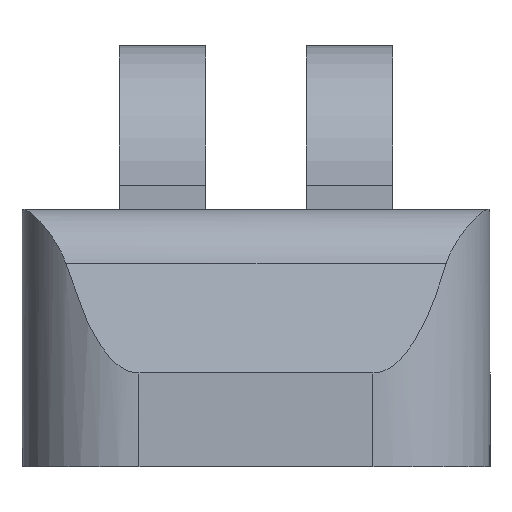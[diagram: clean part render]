
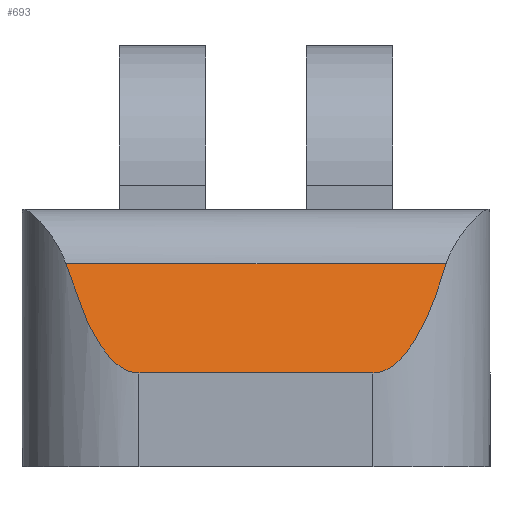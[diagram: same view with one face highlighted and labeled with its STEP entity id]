
A CAD part, left-side view. The second image highlights one B-rep face of the part: STEP entity #693.
In plain terms, the highlighted planar face has unit normal (-0.973, 0, 0.229).
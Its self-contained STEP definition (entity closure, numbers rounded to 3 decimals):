
#16=ELLIPSE('',#771,21.8,5.);
#17=ELLIPSE('',#772,21.8,5.);
#96=FACE_OUTER_BOUND('',#139,.T.);
#139=EDGE_LOOP('',(#575,#576,#577,#578));
#203=LINE('',#1166,#268);
#204=LINE('',#1185,#269);
#268=VECTOR('',#940,10.);
#269=VECTOR('',#947,10.);
#335=VERTEX_POINT('',#1152);
#336=VERTEX_POINT('',#1165);
#338=VERTEX_POINT('',#1182);
#339=VERTEX_POINT('',#1184);
#423=EDGE_CURVE('',#336,#335,#203,.T.);
#426=EDGE_CURVE('',#335,#338,#16,.T.);
#427=EDGE_CURVE('',#338,#339,#204,.T.);
#428=EDGE_CURVE('',#339,#336,#17,.T.);
#575=ORIENTED_EDGE('',*,*,#426,.T.);
#576=ORIENTED_EDGE('',*,*,#427,.T.);
#577=ORIENTED_EDGE('',*,*,#428,.T.);
#578=ORIENTED_EDGE('',*,*,#423,.T.);
#661=PLANE('',#770);
#693=ADVANCED_FACE('',(#96),#661,.T.);
#770=AXIS2_PLACEMENT_3D('',#1181,#943,#944);
#771=AXIS2_PLACEMENT_3D('',#1183,#945,#946);
#772=AXIS2_PLACEMENT_3D('',#1186,#948,#949);
#940=DIRECTION('',(0.,1.,0.));
#943=DIRECTION('center_axis',(-0.973,0.,0.229));
#944=DIRECTION('ref_axis',(0.229,0.,0.973));
#945=DIRECTION('center_axis',(-0.973,0.,0.229));
#946=DIRECTION('ref_axis',(-0.229,0.,-0.973));
#947=DIRECTION('',(0.,-1.,0.));
#948=DIRECTION('center_axis',(-0.973,0.,0.229));
#949=DIRECTION('ref_axis',(-0.229,0.,-0.973));
#1152=CARTESIAN_POINT('',(-31.4,8.129,8.668));
#1165=CARTESIAN_POINT('',(-31.4,-8.129,8.668));
#1166=CARTESIAN_POINT('',(-31.4,-10.,8.668));
#1181=CARTESIAN_POINT('Origin',(-32.5,-10.,4.));
#1182=CARTESIAN_POINT('',(-32.5,5.,4.));
#1183=CARTESIAN_POINT('Origin',(-27.5,5.,25.219));
#1184=CARTESIAN_POINT('',(-32.5,-5.,4.));
#1185=CARTESIAN_POINT('',(-32.5,-10.,4.));
#1186=CARTESIAN_POINT('Origin',(-27.5,-5.,25.219));
